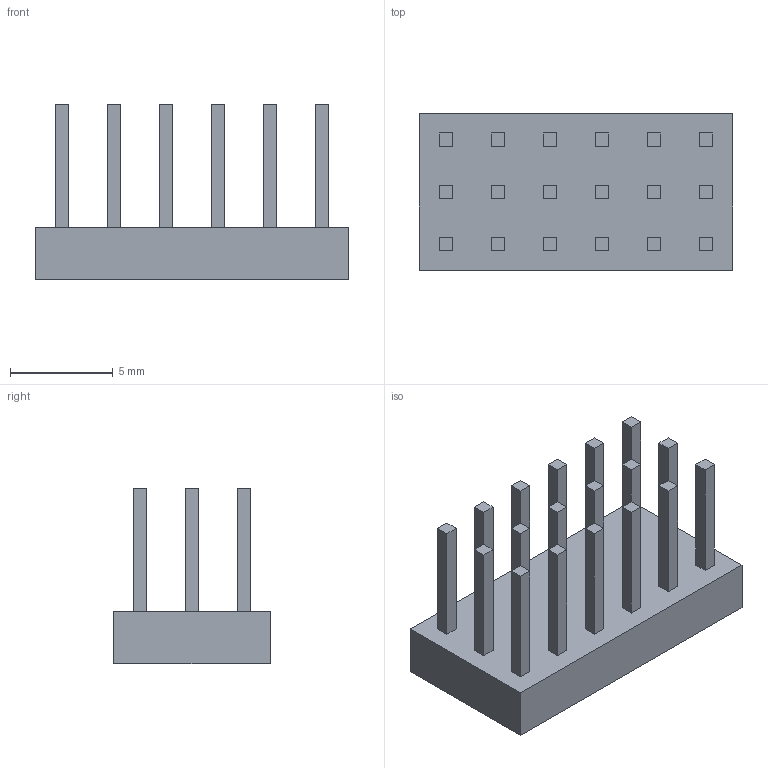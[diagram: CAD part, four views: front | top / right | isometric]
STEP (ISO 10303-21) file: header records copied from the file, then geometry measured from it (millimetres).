
FILE_DESCRIPTION(('Open CASCADE Model'),'2;1');
FILE_NAME('Open CASCADE Shape Model','2026-10-12T20:38:35',('Author'),( 'Open CASCADE'),'Open CASCADE STEP processor 8.0','build123d', 'Unknown');
FILE_SCHEMA(('AUTOMOTIVE_DESIGN { 1 0 10303 214 1 1 1 1 }'));
Length unit declared in the file: millimetre
Products named in the file (20): COMPOUND
Assembly tree (19 placements, depth 2):
  COMPOUND
    COMPOUND
    COMPOUND
    COMPOUND
    COMPOUND
    COMPOUND
    COMPOUND
    COMPOUND
    COMPOUND
    COMPOUND
    COMPOUND
    COMPOUND
    COMPOUND
    COMPOUND
    COMPOUND
    COMPOUND
    COMPOUND
    COMPOUND
    COMPOUND
    COMPOUND
Bounding box: 15.24 x 7.62 x 8.54 mm (x, y, z)
Volume: 339.2 mm3; surface area: 639.6 mm2
Topology: 19 solids, 19 shells, 114 faces, 228 edges, 152 vertices
Faces by surface type: plane 114
Entity records: 6440 total; most frequent: CARTESIAN_POINT 970, DIRECTION 952, LINE 684, VECTOR 684, ORIENTED_EDGE 456, PCURVE 456, DEFINITIONAL_REPRESENTATION 456, EDGE_CURVE 228
